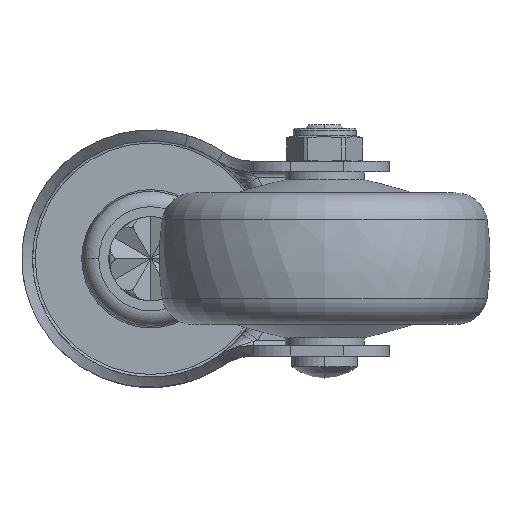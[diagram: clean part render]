
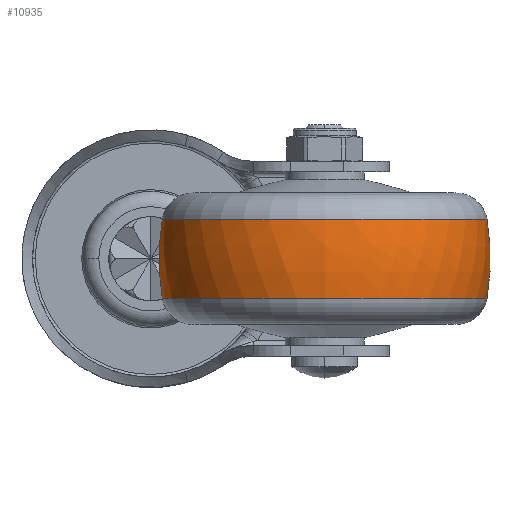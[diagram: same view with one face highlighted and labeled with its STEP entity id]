
A CAD part, front view. The second image highlights one B-rep face of the part: STEP entity #10935.
In plain terms, the highlighted free-form (B-spline) face has degree [3, 3] with [7, 4] control points.
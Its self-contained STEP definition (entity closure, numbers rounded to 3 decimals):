
#10376=CARTESIAN_POINT('',(0.,-13.5,0.));
#10377=DIRECTION('',(0.,0.,1.));
#10378=DIRECTION('',(0.167,0.986,0.));
#10379=AXIS2_PLACEMENT_3D('',#10376,#10377,#10378);
#10381=CARTESIAN_POINT('',(0.,13.5,0.));
#10382=DIRECTION('',(0.,0.,-1.));
#10383=DIRECTION('',(0.167,-0.986,0.));
#10384=AXIS2_PLACEMENT_3D('',#10381,#10382,#10383);
#10386=CARTESIAN_POINT('',(7.5,0.,0.));
#10387=DIRECTION('',(-1.,0.,0.));
#10388=DIRECTION('',(0.,1.,0.));
#10389=AXIS2_PLACEMENT_3D('',#10386,#10387,#10388);
#10411=CARTESIAN_POINT('',(-7.5,0.,0.));
#10412=DIRECTION('',(-1.,0.,0.));
#10413=DIRECTION('',(0.,1.,0.));
#10414=AXIS2_PLACEMENT_3D('',#10411,#10412,#10413);
#10553=CARTESIAN_POINT('',(7.5,30.871,0.));
#10555=VERTEX_POINT('',#10553);
#10556=CARTESIAN_POINT('',(-7.5,30.871,0.));
#10557=VERTEX_POINT('',#10556);
#10561=CARTESIAN_POINT('',(7.5,-30.871,0.));
#10563=VERTEX_POINT('',#10561);
#10564=CARTESIAN_POINT('',(-7.5,-30.871,0.));
#10565=VERTEX_POINT('',#10564);
#10897=CARTESIAN_POINT('',(-7.797,-30.759,
1.935));
#10898=CARTESIAN_POINT('',(-2.625,-31.667,
1.992));
#10899=CARTESIAN_POINT('',(2.625,-31.667,
1.992));
#10900=CARTESIAN_POINT('',(7.797,-30.759,
1.935));
#10901=CARTESIAN_POINT('',(-7.797,-31.949,
-16.994));
#10902=CARTESIAN_POINT('',(-2.625,-32.893,
-17.495));
#10903=CARTESIAN_POINT('',(2.625,-32.893,
-17.495));
#10904=CARTESIAN_POINT('',(7.797,-31.949,
-16.994));
#10905=CARTESIAN_POINT('',(-7.797,-18.966,
-30.819));
#10906=CARTESIAN_POINT('',(-2.625,-19.526,
-31.729));
#10907=CARTESIAN_POINT('',(2.625,-19.526,
-31.729));
#10908=CARTESIAN_POINT('',(7.797,-18.966,
-30.819));
#10909=CARTESIAN_POINT('',(-7.797,0.,
-30.819));
#10910=CARTESIAN_POINT('',(-2.625,0.,
-31.729));
#10911=CARTESIAN_POINT('',(2.625,0.,
-31.729));
#10912=CARTESIAN_POINT('',(7.797,0.,
-30.819));
#10913=CARTESIAN_POINT('',(-7.797,18.966,
-30.819));
#10914=CARTESIAN_POINT('',(-2.625,19.526,
-31.729));
#10915=CARTESIAN_POINT('',(2.625,19.526,
-31.729));
#10916=CARTESIAN_POINT('',(7.797,18.966,
-30.819));
#10917=CARTESIAN_POINT('',(-7.797,31.949,
-16.994));
#10918=CARTESIAN_POINT('',(-2.625,32.893,
-17.495));
#10919=CARTESIAN_POINT('',(2.625,32.893,
-17.495));
#10920=CARTESIAN_POINT('',(7.797,31.949,
-16.994));
#10921=CARTESIAN_POINT('',(-7.797,30.759,
1.935));
#10922=CARTESIAN_POINT('',(-2.625,31.667,
1.992));
#10923=CARTESIAN_POINT('',(2.625,31.667,1.992));
#10924=CARTESIAN_POINT('',(7.797,30.759,1.935));
#10925=(BOUNDED_SURFACE()B_SPLINE_SURFACE(3,3,((#10897,#10898,#10899,#10900),(
#10901,#10902,#10903,#10904),(#10905,#10906,#10907,#10908),(#10909,#10910,
#10911,#10912),(#10913,#10914,#10915,#10916),(#10917,#10918,#10919,#10920),(
#10921,#10922,#10923,#10924)),.UNSPECIFIED.,.F.,.F.,.F.)B_SPLINE_SURFACE_WITH_KNOTS((4,3,4),(4,4),(0.,1.,2.),(0.,1.),.UNSPECIFIED.)GEOMETRIC_REPRESENTATION_ITEM()RATIONAL_B_SPLINE_SURFACE(((1.196,1.184,
1.184,1.196),(0.945,0.935,
0.935,0.945),(0.945,0.935,
0.935,0.945),(1.196,1.184,
1.184,1.196),(0.945,0.935,
0.935,0.945),(0.945,0.935,
0.935,0.945),(1.196,1.184,
1.184,1.196)))REPRESENTATION_ITEM('')SURFACE());
#10927=ORIENTED_EDGE('',*,*,#10926,.T.);
#10929=ORIENTED_EDGE('',*,*,#10928,.T.);
#10931=ORIENTED_EDGE('',*,*,#10930,.F.);
#10932=ORIENTED_EDGE('',*,*,#10890,.F.);
#10933=EDGE_LOOP('',(#10927,#10929,#10931,#10932));
#10934=FACE_OUTER_BOUND('',#10933,.F.);
#10380=CIRCLE('',#10379,45.);
#10385=CIRCLE('',#10384,45.);
#10390=CIRCLE('',#10389,30.871);
#10415=CIRCLE('',#10414,30.871);
#10890=EDGE_CURVE('',#10555,#10563,#10390,.T.);
#10926=EDGE_CURVE('',#10555,#10557,#10380,.T.);
#10928=EDGE_CURVE('',#10557,#10565,#10415,.T.);
#10930=EDGE_CURVE('',#10563,#10565,#10385,.T.);
#10935=ADVANCED_FACE('',(#10934),#10925,.T.);
